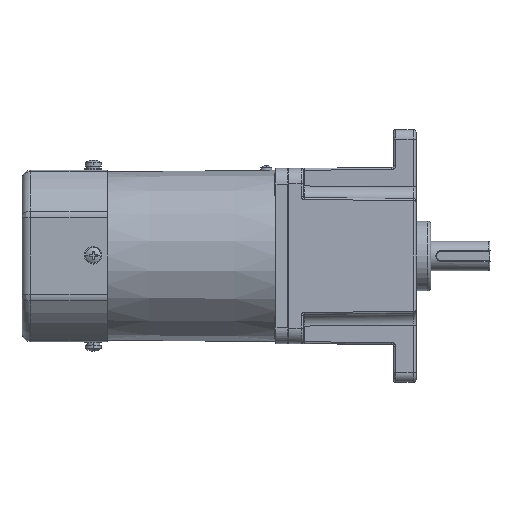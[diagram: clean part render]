
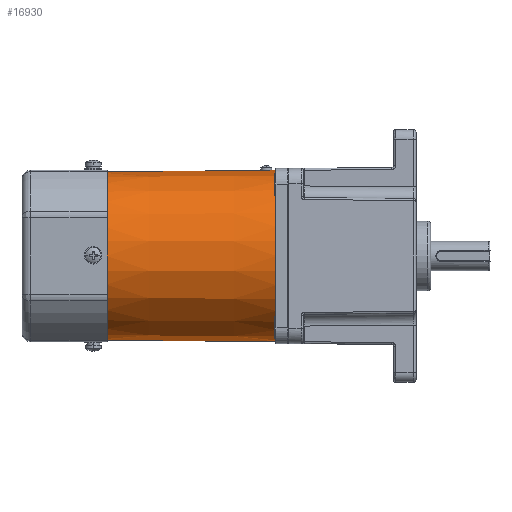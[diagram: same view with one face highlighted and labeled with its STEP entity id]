
A CAD part, front view. The second image highlights one B-rep face of the part: STEP entity #16930.
In plain terms, the highlighted conical face has half-angle 0.503 degrees and reference radius 43.236 mm.
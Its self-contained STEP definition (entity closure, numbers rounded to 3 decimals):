
#1831 = AXIS2_PLACEMENT_3D ( 'NONE', #27277, #11228, #36998 ) ;
#1968 = CARTESIAN_POINT ( 'NONE',  ( 2545.293, -775.157, 0. ) ) ;
#2965 = VERTEX_POINT ( 'NONE', #29804 ) ;
#5015 = LINE ( 'NONE', #40094, #6975 ) ;
#5848 = EDGE_LOOP ( 'NONE', ( #37834, #26439, #31263, #40441, #11755 ) ) ;
#6397 = CARTESIAN_POINT ( 'NONE',  ( -2380.797, -775.157, 0. ) ) ;
#6694 = VERTEX_POINT ( 'NONE', #33646 ) ;
#6975 = VECTOR ( 'NONE', #30373, 1000. ) ;
#7698 = AXIS2_PLACEMENT_3D ( 'NONE', #19392, #12638, #35666 ) ;
#9192 = VECTOR ( 'NONE', #35102, 1000. ) ;
#9752 = CIRCLE ( 'NONE', #7698, 43.236 ) ;
#11228 = DIRECTION ( 'NONE',  ( -1., 0., 0. ) ) ;
#11282 = FACE_OUTER_BOUND ( 'NONE', #5848, .T. ) ;
#11755 = ORIENTED_EDGE ( 'NONE', *, *, #17039, .T. ) ;
#12638 = DIRECTION ( 'NONE',  ( -1., 0., 0. ) ) ;
#13279 = VERTEX_POINT ( 'NONE', #18513 ) ;
#14853 = DIRECTION ( 'NONE',  ( 0., 0., -1. ) ) ;
#16930 = ADVANCED_FACE ( 'NONE', ( #11282 ), #30483, .T. ) ;
#17039 = EDGE_CURVE ( 'NONE', #6694, #2965, #28573, .T. ) ;
#18513 = CARTESIAN_POINT ( 'NONE',  ( 2545.293, -775.157, 43.236 ) ) ;
#19392 = CARTESIAN_POINT ( 'NONE',  ( 2545.293, -775.157, 0. ) ) ;
#19691 = VECTOR ( 'NONE', #31731, 1000. ) ;
#20454 = CARTESIAN_POINT ( 'NONE',  ( 2545.293, -775.157, -43.236 ) ) ;
#22013 = CARTESIAN_POINT ( 'NONE',  ( 2632.292, -775.157, -44. ) ) ;
#22024 = CARTESIAN_POINT ( 'NONE',  ( 2545.293, -775.157, 43.236 ) ) ;
#22221 = LINE ( 'NONE', #22024, #9192 ) ;
#23073 = AXIS2_PLACEMENT_3D ( 'NONE', #1968, #37057, #14853 ) ;
#23622 = EDGE_CURVE ( 'NONE', #26062, #31803, #5015, .T. ) ;
#25949 = EDGE_CURVE ( 'NONE', #26062, #13279, #9752, .T. ) ;
#26062 = VERTEX_POINT ( 'NONE', #20454 ) ;
#26439 = ORIENTED_EDGE ( 'NONE', *, *, #25949, .F. ) ;
#27277 = CARTESIAN_POINT ( 'NONE',  ( 2632.292, -775.157, 0. ) ) ;
#28573 = LINE ( 'NONE', #6397, #19691 ) ;
#29614 = EDGE_CURVE ( 'NONE', #13279, #2965, #22221, .T. ) ;
#29804 = CARTESIAN_POINT ( 'NONE',  ( 2622.292, -775.157, 43.912 ) ) ;
#30373 = DIRECTION ( 'NONE',  ( 1., 0., -0.009 ) ) ;
#30483 = CONICAL_SURFACE ( 'NONE', #23073, 43.236, 0.009 ) ;
#30904 = EDGE_CURVE ( 'NONE', #31803, #6694, #41648, .T. ) ;
#31263 = ORIENTED_EDGE ( 'NONE', *, *, #23622, .T. ) ;
#31731 = DIRECTION ( 'NONE',  ( -1., 0., -0.009 ) ) ;
#31803 = VERTEX_POINT ( 'NONE', #22013 ) ;
#33646 = CARTESIAN_POINT ( 'NONE',  ( 2632.292, -775.157, 44. ) ) ;
#35102 = DIRECTION ( 'NONE',  ( 1., 0., 0.009 ) ) ;
#35666 = DIRECTION ( 'NONE',  ( 0., 0., 1. ) ) ;
#36998 = DIRECTION ( 'NONE',  ( 0., 0., -1. ) ) ;
#37057 = DIRECTION ( 'NONE',  ( 1., 0., 0. ) ) ;
#37834 = ORIENTED_EDGE ( 'NONE', *, *, #29614, .F. ) ;
#40094 = CARTESIAN_POINT ( 'NONE',  ( 2545.293, -775.157, -43.236 ) ) ;
#40441 = ORIENTED_EDGE ( 'NONE', *, *, #30904, .T. ) ;
#41648 = CIRCLE ( 'NONE', #1831, 44. ) ;
